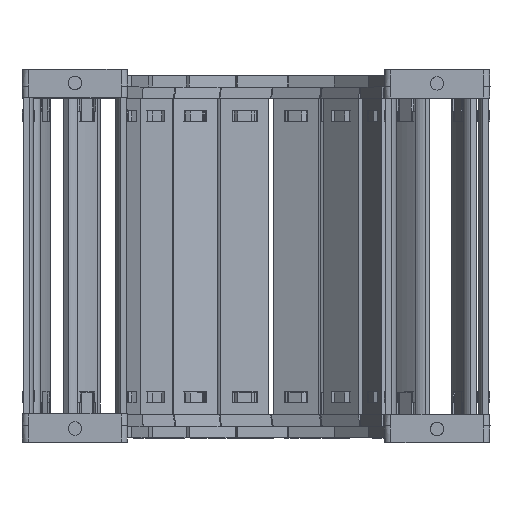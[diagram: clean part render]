
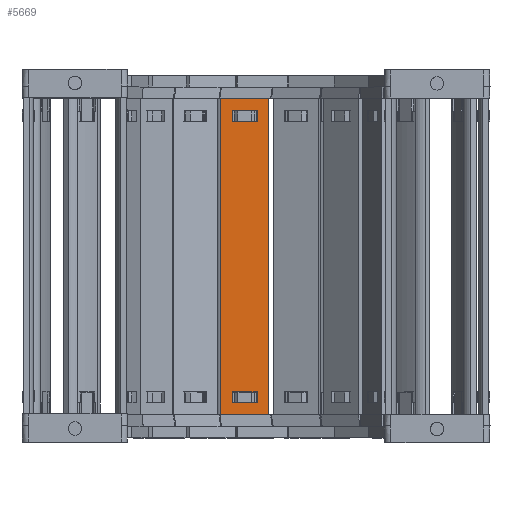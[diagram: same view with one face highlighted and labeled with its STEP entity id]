
A CAD part, top view. The second image highlights one B-rep face of the part: STEP entity #5669.
In plain terms, the highlighted planar face has unit normal (0.035, 0, 0.999) as drawn and (0, 1, 0) by its records, which use the part's own axes.
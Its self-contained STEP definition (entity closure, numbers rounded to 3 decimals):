
#5089=DIRECTION('',(0.,0.,1.));
#5090=VECTOR('',#5089,15.8);
#5091=CARTESIAN_POINT('',(88.74,1.5,-7.9));
#5092=LINE('',#5091,#5090);
#5093=DIRECTION('',(-1.,0.,0.));
#5094=VECTOR('',#5093,103.5);
#5095=CARTESIAN_POINT('',(88.74,1.5,7.9));
#5096=LINE('',#5095,#5094);
#5097=DIRECTION('',(0.,0.,-1.));
#5098=VECTOR('',#5097,15.8);
#5099=CARTESIAN_POINT('',(-14.76,1.5,7.9));
#5100=LINE('',#5099,#5098);
#5101=DIRECTION('',(1.,0.,0.));
#5102=VECTOR('',#5101,3.648);
#5103=CARTESIAN_POINT('',(81.122,1.5,4.075));
#5104=LINE('',#5103,#5102);
#5105=DIRECTION('',(0.,0.,-1.));
#5106=VECTOR('',#5105,8.15);
#5107=CARTESIAN_POINT('',(84.77,1.5,4.075));
#5108=LINE('',#5107,#5106);
#5109=DIRECTION('',(-1.,0.,0.));
#5110=VECTOR('',#5109,3.648);
#5111=CARTESIAN_POINT('',(84.77,1.5,-4.075));
#5112=LINE('',#5111,#5110);
#5113=DIRECTION('',(0.,0.,-1.));
#5114=VECTOR('',#5113,8.15);
#5115=CARTESIAN_POINT('',(-7.142,1.5,4.075));
#5116=LINE('',#5115,#5114);
#5117=DIRECTION('',(-1.,0.,0.));
#5118=VECTOR('',#5117,3.648);
#5119=CARTESIAN_POINT('',(-7.142,1.5,-4.075));
#5120=LINE('',#5119,#5118);
#5121=DIRECTION('',(0.,0.,1.));
#5122=VECTOR('',#5121,8.15);
#5123=CARTESIAN_POINT('',(-10.79,1.5,-4.075));
#5124=LINE('',#5123,#5122);
#5125=DIRECTION('',(1.,0.,0.));
#5126=VECTOR('',#5125,3.648);
#5127=CARTESIAN_POINT('',(-10.79,1.5,4.075));
#5128=LINE('',#5127,#5126);
#5133=DIRECTION('',(-1.,0.,0.));
#5134=VECTOR('',#5133,103.5);
#5135=CARTESIAN_POINT('',(88.74,1.5,-7.9));
#5136=LINE('',#5135,#5134);
#5254=DIRECTION('',(0.,0.,-1.));
#5255=VECTOR('',#5254,8.15);
#5256=CARTESIAN_POINT('',(81.122,1.5,4.075));
#5257=LINE('',#5256,#5255);
#5439=CARTESIAN_POINT('',(84.77,1.5,4.075));
#5440=VERTEX_POINT('',#5439);
#5441=CARTESIAN_POINT('',(81.122,1.5,4.075));
#5442=VERTEX_POINT('',#5441);
#5483=CARTESIAN_POINT('',(81.122,1.5,-4.075));
#5484=VERTEX_POINT('',#5483);
#5485=CARTESIAN_POINT('',(84.77,1.5,-4.075));
#5486=VERTEX_POINT('',#5485);
#5487=CARTESIAN_POINT('',(88.74,1.5,7.9));
#5489=VERTEX_POINT('',#5487);
#5491=CARTESIAN_POINT('',(88.74,1.5,-7.9));
#5492=VERTEX_POINT('',#5491);
#5515=CARTESIAN_POINT('',(-7.142,1.5,4.075));
#5516=CARTESIAN_POINT('',(-7.142,1.5,-4.075));
#5517=VERTEX_POINT('',#5515);
#5518=VERTEX_POINT('',#5516);
#5519=CARTESIAN_POINT('',(-10.79,1.5,-4.075));
#5520=VERTEX_POINT('',#5519);
#5521=CARTESIAN_POINT('',(-10.79,1.5,4.075));
#5522=VERTEX_POINT('',#5521);
#5523=CARTESIAN_POINT('',(-14.76,1.5,7.9));
#5524=VERTEX_POINT('',#5523);
#5527=CARTESIAN_POINT('',(-14.76,1.5,-7.9));
#5528=VERTEX_POINT('',#5527);
#5638=CARTESIAN_POINT('',(120.48,1.5,10.061));
#5639=DIRECTION('',(0.,-1.,0.));
#5640=DIRECTION('',(0.,0.,-1.));
#5641=AXIS2_PLACEMENT_3D('',#5638,#5639,#5640);
#5642=PLANE('',#5641);
#5643=ORIENTED_EDGE('',*,*,#5577,.T.);
#5644=ORIENTED_EDGE('',*,*,#5603,.T.);
#5645=ORIENTED_EDGE('',*,*,#5616,.T.);
#5647=ORIENTED_EDGE('',*,*,#5646,.F.);
#5648=EDGE_LOOP('',(#5643,#5644,#5645,#5647));
#5649=FACE_OUTER_BOUND('',#5648,.F.);
#5651=ORIENTED_EDGE('',*,*,#5650,.F.);
#5652=ORIENTED_EDGE('',*,*,#5540,.T.);
#5654=ORIENTED_EDGE('',*,*,#5653,.T.);
#5656=ORIENTED_EDGE('',*,*,#5655,.T.);
#5657=EDGE_LOOP('',(#5651,#5652,#5654,#5656));
#5658=FACE_BOUND('',#5657,.F.);
#5660=ORIENTED_EDGE('',*,*,#5659,.T.);
#5662=ORIENTED_EDGE('',*,*,#5661,.T.);
#5664=ORIENTED_EDGE('',*,*,#5663,.T.);
#5666=ORIENTED_EDGE('',*,*,#5665,.T.);
#5667=EDGE_LOOP('',(#5660,#5662,#5664,#5666));
#5668=FACE_BOUND('',#5667,.F.);
#5669=ADVANCED_FACE('',(#5649,#5658,#5668),#5642,.F.);
#5540=EDGE_CURVE('',#5442,#5440,#5104,.T.);
#5577=EDGE_CURVE('',#5492,#5489,#5092,.T.);
#5603=EDGE_CURVE('',#5489,#5524,#5096,.T.);
#5616=EDGE_CURVE('',#5524,#5528,#5100,.T.);
#5646=EDGE_CURVE('',#5492,#5528,#5136,.T.);
#5650=EDGE_CURVE('',#5442,#5484,#5257,.T.);
#5653=EDGE_CURVE('',#5440,#5486,#5108,.T.);
#5655=EDGE_CURVE('',#5486,#5484,#5112,.T.);
#5659=EDGE_CURVE('',#5517,#5518,#5116,.T.);
#5661=EDGE_CURVE('',#5518,#5520,#5120,.T.);
#5663=EDGE_CURVE('',#5520,#5522,#5124,.T.);
#5665=EDGE_CURVE('',#5522,#5517,#5128,.T.);
